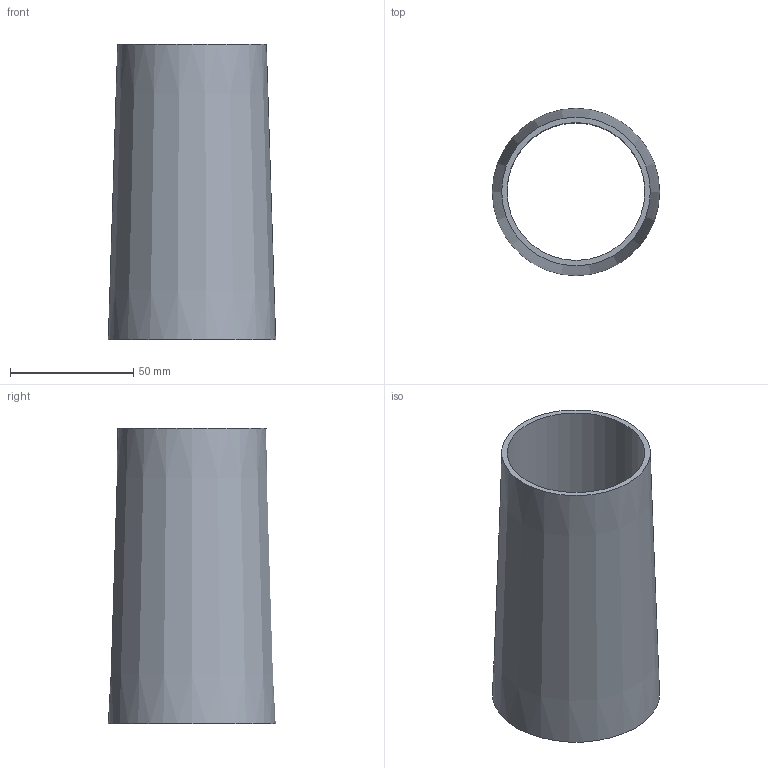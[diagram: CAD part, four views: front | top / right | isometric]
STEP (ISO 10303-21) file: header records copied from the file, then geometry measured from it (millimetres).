
FILE_DESCRIPTION(('FreeCAD Model'),'2;1');
FILE_NAME('Open CASCADE Shape Model','2026-09-10T08:54:07',('FreeCAD'),( 'FreeCAD'),'Open CASCADE STEP processor 7.8','FreeCAD','Unknown');
FILE_SCHEMA(('AUTOMOTIVE_DESIGN { 1 0 10303 214 1 1 1 1 }'));
Length unit declared in the file: millimetre
Products named in the file (1): Open CASCADE STEP translator 7.8 1
Bounding box: 68 x 68 x 120 mm (x, y, z)
Volume: 93348 mm3; surface area: 46897.4 mm2
Topology: 1 solids, 1 shells, 4 faces, 6 edges, 4 vertices
Faces by surface type: plane 2, cone 1, cylinder 1
Full cylindrical faces by diameter (mm): 56 x1
Entity records: 108 total; most frequent: DIRECTION 20, CARTESIAN_POINT 15, ORIENTED_EDGE 12, AXIS2_PLACEMENT_3D 9, FACE_BOUND 6, EDGE_LOOP 6, EDGE_CURVE 6, ADVANCED_FACE 4
